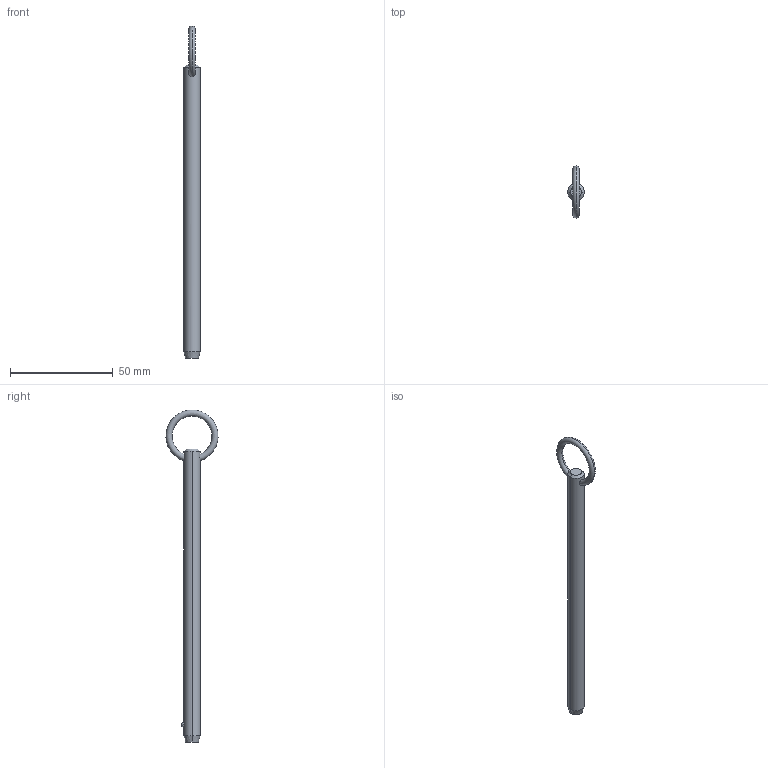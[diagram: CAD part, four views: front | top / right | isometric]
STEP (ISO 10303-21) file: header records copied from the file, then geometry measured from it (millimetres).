
FILE_DESCRIPTION (( 'STEP AP203' ), '1' );
FILE_NAME ('P1250.031-500.step', '2019-07-29T19:57:42', ( '' ), ( '' ), 'SwSTEP 2.0', 'SolidWorks 2017', '' );
FILE_SCHEMA (( 'CONFIG_CONTROL_DESIGN' ));
Length unit declared in the file: millimetre
Products named in the file (1): P1250.031-500
Bounding box: 7.93 x 25.36 x 161.91 mm (x, y, z)
Volume: 7456.8 mm3; surface area: 4194.7 mm2
Topology: 1 solids, 1 shells, 12 faces, 28 edges, 17 vertices
Faces by surface type: cone 4, torus 2, sphere 2, cylinder 2, plane 2
Entity records: 509 total; most frequent: CARTESIAN_POINT 176, DIRECTION 56, ORIENTED_EDGE 48, AXIS2_PLACEMENT_3D 25, EDGE_CURVE 24, EDGE_LOOP 15, VERTEX_POINT 15, FACE_OUTER_BOUND 12
